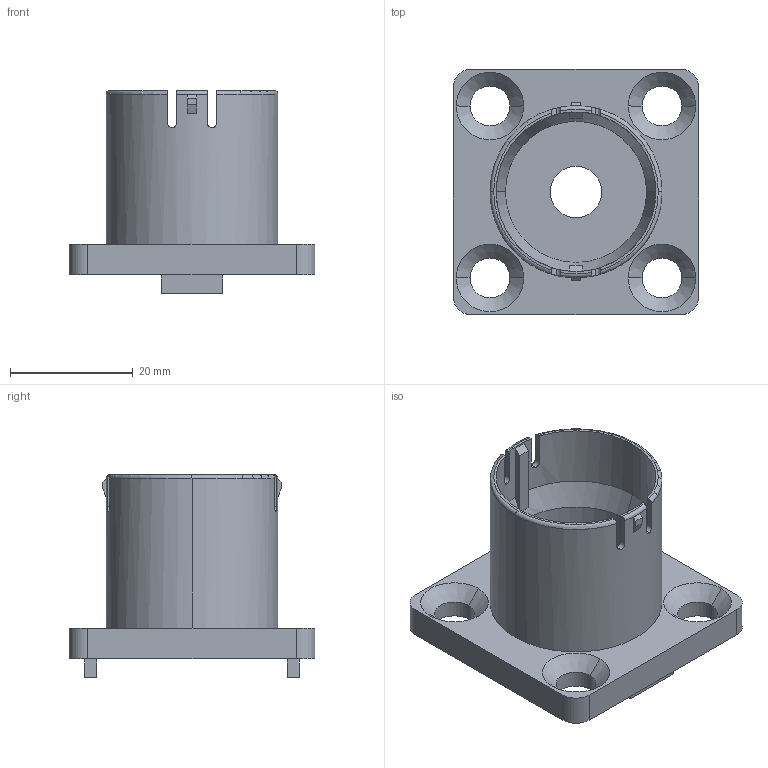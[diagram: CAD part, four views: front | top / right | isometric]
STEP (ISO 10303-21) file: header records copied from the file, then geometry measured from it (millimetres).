
FILE_DESCRIPTION(('STEP AP214'),'1');
FILE_NAME('fath_098h401008.stp','2017-05-01T06:09:50',('TraceParts'),('TraceParts S.A.'),'Spatial InterOp 3D',' ',' ');
FILE_SCHEMA(('automotive_design'));
Length unit declared in the file: millimetre
Products named in the file (1): fath_098h401008
Bounding box: 40 x 40 x 33 mm (x, y, z)
Volume: 10451.9 mm3; surface area: 8320.9 mm2
Topology: 1 solids, 1 shells, 101 faces, 262 edges, 170 vertices
Faces by surface type: plane 57, cylinder 28, cone 10, torus 6
Entity records: 4059 total; most frequent: CARTESIAN_POINT 748, ORIENTED_EDGE 524, DIRECTION 496, EDGE_CURVE 262, VERTEX_POINT 170, AXIS2_PLACEMENT_3D 168, LINE 160, VECTOR 160
